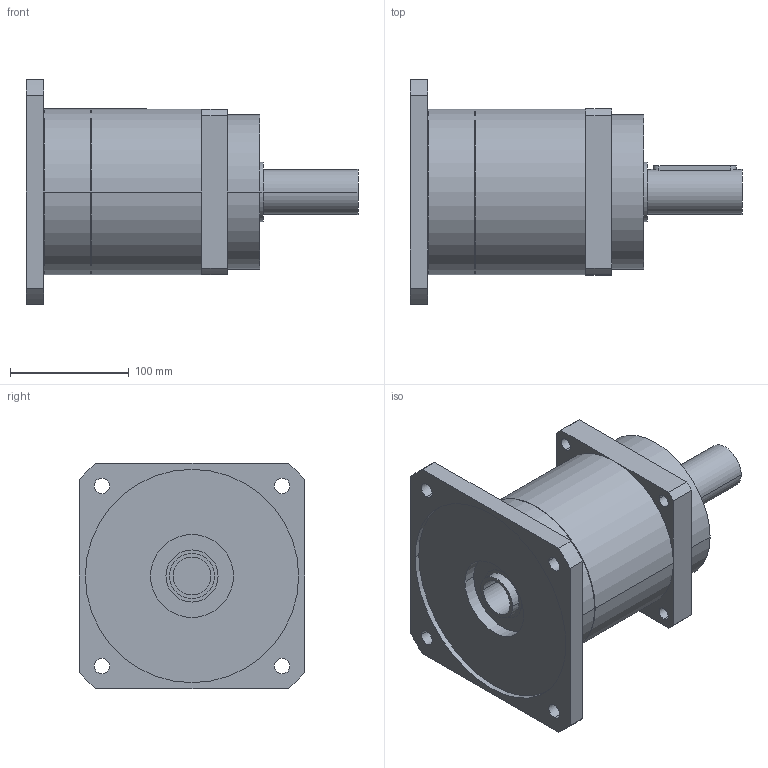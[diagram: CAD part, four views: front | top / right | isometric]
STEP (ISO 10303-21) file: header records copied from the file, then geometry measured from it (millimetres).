
FILE_DESCRIPTION(('CoCreate Modeling STEP Export'),'2;1');
FILE_NAME('GPR150_ig-3-4-5-7_38_B5_32_P06.stp','2014-08-19T16:42:58',(''),(''),'CoCreate Modeling STEP processor for AP214 (Solid Model)','CoCreate Modeling 16.00C 25-Feb-2009 (C) Parametric Technology GmbH','');
FILE_SCHEMA(('AUTOMOTIVE_DESIGN { 1 0 10303 214 1 1 1 1 }'));
Length unit declared in the file: millimetre
Products named in the file (2): GPR150_ig-3-4-5-7_38_B5_32_P06
Assembly tree (1 placements, depth 2):
  GPR150_ig-3-4-5-7_38_B5_32_P06
    GPR150_ig-3-4-5-7_38_B5_32_P06
Bounding box: 280 x 190 x 190 mm (x, y, z)
Volume: 3244799.7 mm3; surface area: 200833.6 mm2
Topology: 1 solids, 1 shells, 81 faces, 220 edges, 150 vertices
Faces by surface type: cylinder 48, plane 27, cone 6
Entity records: 2325 total; most frequent: ORIENTED_EDGE 436, CARTESIAN_POINT 431, DIRECTION 330, EDGE_CURVE 218, VERTEX_POINT 150, AXIS2_PLACEMENT_3D 121, EDGE_LOOP 108, VECTOR 88
